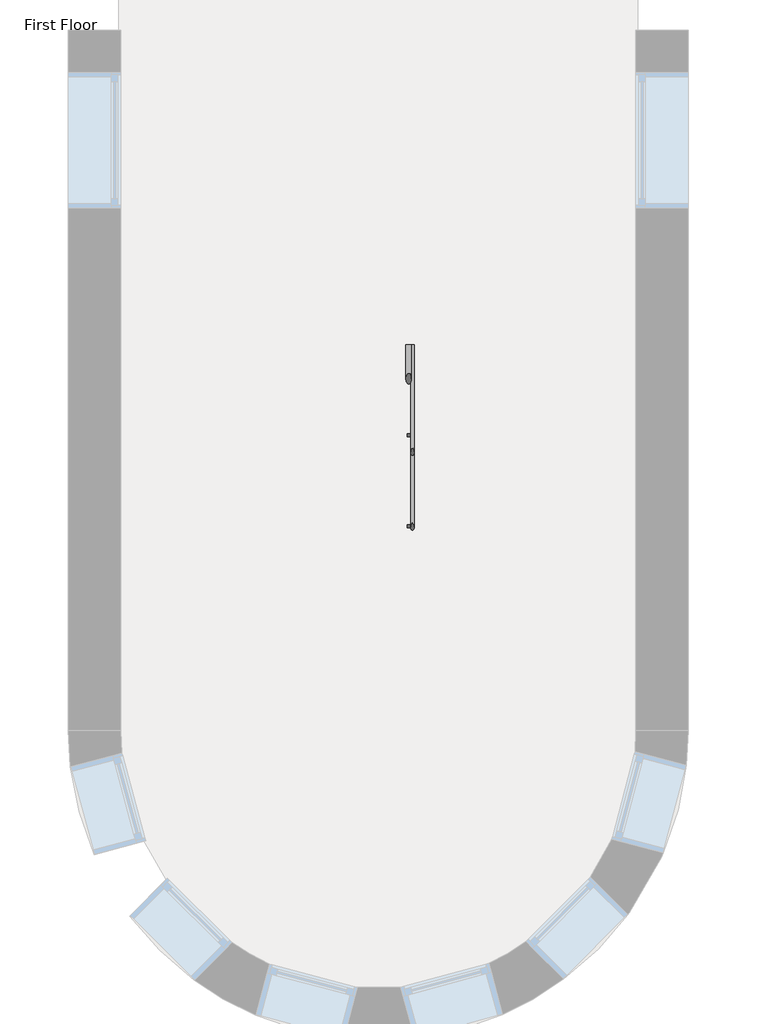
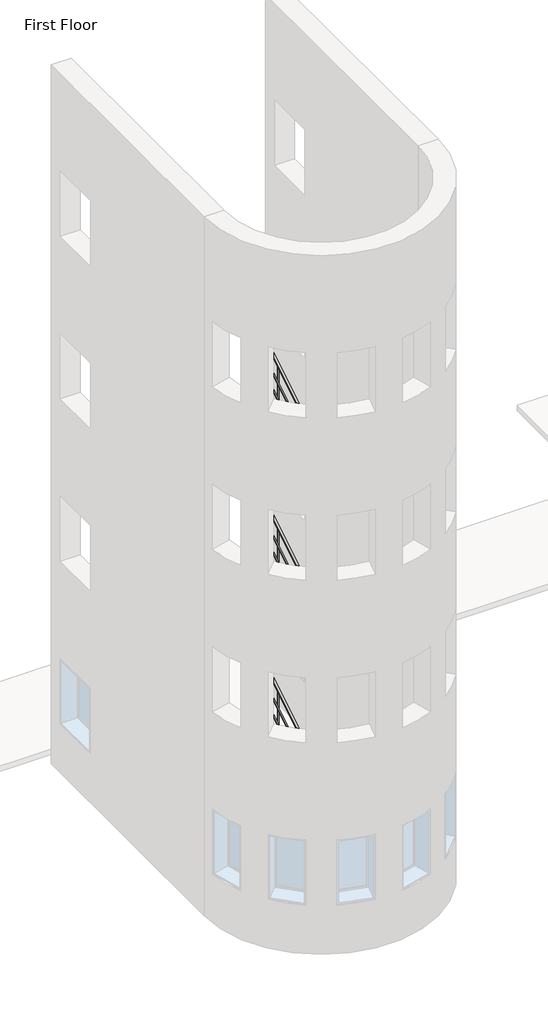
# One storey, part 21 of 24: 1 railing.
"""IFC4 building model written with IfcOpenShell, lengths in millimetres."""

from ifc_helpers import new_model, si_unit, frame, origin, place, context, project, spatial, polyline, circle_curve, ellipse_curve, outline, extrude, element, save
from ifc_brep_helpers import plane_surface, cylinder_surface, advanced_brep

model = new_model("IFC4")

# Units and contexts
model_context = context("Model", 3, world=origin())
ifc_project = project(units=[si_unit("LENGTHUNIT", "METRE", prefix="MILLI")], contexts=[model_context])

# Site, building, storey
site = spatial("IfcSite", under=ifc_project)
building = spatial("IfcBuilding", under=site)
storey = spatial("IfcBuildingStorey", under=building, Name="First Floor", Elevation=0.0)

# Railing
placement = place(None, origin())
element("IfcRailing", 1, ObjectType="Handrail - Rectangular", at=placement, inside=storey, context=model_context, shape_type="SolidModel", body=[
    advanced_brep(
    [(-14693.8714563, -30244.5683133, 6860.0829683), (-14719.2714563, -30244.5683133, 6860.0829683), (-14693.8714563, -32467.0683133, 8207.0526652), (-14719.2714563, -32467.0683133, 8207.0526652)],
    [
        (0, 1, ellipse_curve(frame((-14706.5714563, -30244.5683133, 6860.0829683), z_axis=(0.0, 1.0, 0.0), x_axis=(0.0, 0.0, -1.0)), 14.8503651, 12.7)),
        (1, 0, ellipse_curve(frame((-14706.5714563, -30244.5683133, 6860.0829683), z_axis=(0.0, 1.0, 0.0), x_axis=(0.0, 0.0, -1.0)), 14.8503651, 12.7)),
        (2, 3, ellipse_curve(frame((-14706.5714563, -32467.0683133, 8207.0526652), z_axis=(0.0, -1.0, 0.0), x_axis=(0.0, 0.0, -1.0)), 14.8503651, 12.7)),
        (3, 2, ellipse_curve(frame((-14706.5714563, -32467.0683133, 8207.0526652), z_axis=(0.0, -1.0, 0.0), x_axis=(0.0, 0.0, -1.0)), 14.8503651, 12.7)),
        (0, 2),
        (3, 1),
    ],
    [
        plane_surface(frame((-14706.5714563, -30244.5683133, 6874.9333333), z_axis=(0.0, 1.0, 0.0), x_axis=(0.0, 0.0, -1.0))),
        plane_surface(frame((-14706.5714563, -32467.0683133, 8221.9030303), z_axis=(0.0, -1.0, 0.0), x_axis=(0.0, 0.0, -1.0))),
        cylinder_surface(frame((-14706.5714563, -30251.1507451, 6864.0723209), z_axis=(0.0, 0.8551978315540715, -0.5183017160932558), x_axis=(-1.0, 0.0, 0.0)), 12.7),
    ],
    [
        (0, [[1, 2]]),
        (1, [[3, 4]]),
        (2, [[-1, 5, -4, 6]]),
        (2, [[-2, -6, -3, -5]]),
    ],
),
    advanced_brep(
    [(-14693.8714563, -32492.4683133, 8216.9), (-14693.8714563, -32467.0683133, 8216.9), (-15136.7839563, -32492.4683133, 8216.9), (-15136.7839563, -32467.0683133, 8216.9)],
    [
        (0, 1, circle_curve(frame((-14693.8714563, -32479.7683133, 8216.9), z_axis=(1.0, 0.0, 0.0), x_axis=(0.0, 1.0, 0.0)), 12.7)),
        (1, 0, circle_curve(frame((-14693.8714563, -32479.7683133, 8216.9), z_axis=(1.0, 0.0, 0.0), x_axis=(0.0, 1.0, 0.0)), 12.7)),
        (2, 3, circle_curve(frame((-15136.7839563, -32479.7683133, 8216.9), z_axis=(-1.0, 0.0, 0.0), x_axis=(0.0, 1.0, 0.0)), 12.7)),
        (3, 2, circle_curve(frame((-15136.7839563, -32479.7683133, 8216.9), z_axis=(-1.0, 0.0, 0.0), x_axis=(0.0, 1.0, 0.0)), 12.7)),
        (0, 2),
        (3, 1),
    ],
    [
        plane_surface(frame((-14693.8714563, -32479.7683133, 8229.6), z_axis=(1.0, 0.0, 0.0), x_axis=(0.0, -1.0, 0.0))),
        plane_surface(frame((-15136.7839563, -32479.7683133, 8229.6), z_axis=(-1.0, 0.0, 0.0), x_axis=(0.0, -1.0, 0.0))),
        cylinder_surface(frame((-14693.8714563, -32479.7683133, 8216.9), z_axis=(1.0, 0.0, 0.0), x_axis=(0.0, 1.0, 0.0)), 12.7),
    ],
    [
        (0, [[1, 2]]),
        (1, [[3, 4]]),
        (2, [[-1, 5, -4, 6]]),
        (2, [[-2, -6, -3, -5]]),
    ],
),
    advanced_brep(
    [(-15162.1839563, -32492.4683133, 8376.3859986), (-15136.7839563, -32492.4683133, 8376.3859986), (-15162.1839563, -30244.5683133, 9738.7496349), (-15136.7839563, -30244.5683133, 9738.7496349)],
    [
        (0, 1, ellipse_curve(frame((-15149.4839563, -32492.4683133, 8376.3859986), z_axis=(0.0, -1.0, 0.0), x_axis=(0.0, 0.0, -1.0)), 14.8503651, 12.7)),
        (1, 0, ellipse_curve(frame((-15149.4839563, -32492.4683133, 8376.3859986), z_axis=(0.0, -1.0, 0.0), x_axis=(0.0, 0.0, -1.0)), 14.8503651, 12.7)),
        (2, 3, ellipse_curve(frame((-15149.4839563, -30244.5683133, 9738.7496349), z_axis=(0.0, 1.0, 0.0), x_axis=(0.0, 0.0, -1.0)), 14.8503651, 12.7)),
        (3, 2, ellipse_curve(frame((-15149.4839563, -30244.5683133, 9738.7496349), z_axis=(0.0, 1.0, 0.0), x_axis=(0.0, 0.0, -1.0)), 14.8503651, 12.7)),
        (0, 2),
        (3, 1),
    ],
    [
        plane_surface(frame((-15149.4839563, -32492.4683133, 8391.2363636), z_axis=(0.0, -1.0, 0.0), x_axis=(0.0, 0.0, 1.0))),
        plane_surface(frame((-15149.4839563, -30244.5683133, 9753.6), z_axis=(0.0, 1.0, 0.0), x_axis=(0.0, 0.0, 1.0))),
        cylinder_surface(frame((-15149.4839563, -32485.8858815, 8380.3753512), z_axis=(0.0, -0.8551978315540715, -0.5183017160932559), x_axis=(1.0, 0.0, 0.0)), 12.7),
    ],
    [
        (0, [[1, 2]]),
        (1, [[3, 4]]),
        (2, [[-1, 5, -4, 6]]),
        (2, [[-2, -6, -3, -5]]),
    ],
),
    advanced_brep(
    [(-14693.8714563, -30244.5683133, 6555.2829683), (-14719.2714563, -30244.5683133, 6555.2829683), (-14693.8714563, -32467.0683133, 7902.2526652), (-14719.2714563, -32467.0683133, 7902.2526652)],
    [
        (0, 1, ellipse_curve(frame((-14706.5714563, -30244.5683133, 6555.2829683), z_axis=(0.0, 1.0, 0.0), x_axis=(0.0, 0.0, -1.0)), 14.8503651, 12.7)),
        (1, 0, ellipse_curve(frame((-14706.5714563, -30244.5683133, 6555.2829683), z_axis=(0.0, 1.0, 0.0), x_axis=(0.0, 0.0, -1.0)), 14.8503651, 12.7)),
        (2, 3, ellipse_curve(frame((-14706.5714563, -32467.0683133, 7902.2526652), z_axis=(0.0, -1.0, 0.0), x_axis=(0.0, 0.0, -1.0)), 14.8503651, 12.7)),
        (3, 2, ellipse_curve(frame((-14706.5714563, -32467.0683133, 7902.2526652), z_axis=(0.0, -1.0, 0.0), x_axis=(0.0, 0.0, -1.0)), 14.8503651, 12.7)),
        (0, 2),
        (3, 1),
    ],
    [
        plane_surface(frame((-14706.5714563, -30244.5683133, 6570.1333333), z_axis=(0.0, 1.0, 0.0), x_axis=(0.0, 0.0, -1.0))),
        plane_surface(frame((-14706.5714563, -32467.0683133, 7917.1030303), z_axis=(0.0, -1.0, 0.0), x_axis=(0.0, 0.0, -1.0))),
        cylinder_surface(frame((-14706.5714563, -30251.1507451, 6559.2723209), z_axis=(0.0, 0.8551978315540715, -0.5183017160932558), x_axis=(-1.0, 0.0, 0.0)), 12.7),
    ],
    [
        (0, [[1, 2]]),
        (1, [[3, 4]]),
        (2, [[-1, 5, -4, 6]]),
        (2, [[-2, -6, -3, -5]]),
    ],
),
    advanced_brep(
    [(-14693.8714563, -32492.4683133, 7912.1), (-14693.8714563, -32467.0683133, 7912.1), (-15136.7839563, -32492.4683133, 7912.1), (-15136.7839563, -32467.0683133, 7912.1)],
    [
        (0, 1, circle_curve(frame((-14693.8714563, -32479.7683133, 7912.1), z_axis=(1.0, 0.0, 0.0), x_axis=(0.0, 1.0, 0.0)), 12.7)),
        (1, 0, circle_curve(frame((-14693.8714563, -32479.7683133, 7912.1), z_axis=(1.0, 0.0, 0.0), x_axis=(0.0, 1.0, 0.0)), 12.7)),
        (2, 3, circle_curve(frame((-15136.7839563, -32479.7683133, 7912.1), z_axis=(-1.0, 0.0, 0.0), x_axis=(0.0, 1.0, 0.0)), 12.7)),
        (3, 2, circle_curve(frame((-15136.7839563, -32479.7683133, 7912.1), z_axis=(-1.0, 0.0, 0.0), x_axis=(0.0, 1.0, 0.0)), 12.7)),
        (0, 2),
        (3, 1),
    ],
    [
        plane_surface(frame((-14693.8714563, -32479.7683133, 7924.8), z_axis=(1.0, 0.0, 0.0), x_axis=(0.0, -1.0, 0.0))),
        plane_surface(frame((-15136.7839563, -32479.7683133, 7924.8), z_axis=(-1.0, 0.0, 0.0), x_axis=(0.0, -1.0, 0.0))),
        cylinder_surface(frame((-14693.8714563, -32479.7683133, 7912.1), z_axis=(1.0, 0.0, 0.0), x_axis=(0.0, 1.0, 0.0)), 12.7),
    ],
    [
        (0, [[1, 2]]),
        (1, [[3, 4]]),
        (2, [[-1, 5, -4, 6]]),
        (2, [[-2, -6, -3, -5]]),
    ],
),
    advanced_brep(
    [(-15162.1839563, -32492.4683133, 8071.5859986), (-15136.7839563, -32492.4683133, 8071.5859986), (-15162.1839563, -30244.5683133, 9433.9496349), (-15136.7839563, -30244.5683133, 9433.9496349)],
    [
        (0, 1, ellipse_curve(frame((-15149.4839563, -32492.4683133, 8071.5859986), z_axis=(0.0, -1.0, 0.0), x_axis=(0.0, 0.0, -1.0)), 14.8503651, 12.7)),
        (1, 0, ellipse_curve(frame((-15149.4839563, -32492.4683133, 8071.5859986), z_axis=(0.0, -1.0, 0.0), x_axis=(0.0, 0.0, -1.0)), 14.8503651, 12.7)),
        (2, 3, ellipse_curve(frame((-15149.4839563, -30244.5683133, 9433.9496349), z_axis=(0.0, 1.0, 0.0), x_axis=(0.0, 0.0, -1.0)), 14.8503651, 12.7)),
        (3, 2, ellipse_curve(frame((-15149.4839563, -30244.5683133, 9433.9496349), z_axis=(0.0, 1.0, 0.0), x_axis=(0.0, 0.0, -1.0)), 14.8503651, 12.7)),
        (0, 2),
        (3, 1),
    ],
    [
        plane_surface(frame((-15149.4839563, -32492.4683133, 8086.4363636), z_axis=(0.0, -1.0, 0.0), x_axis=(0.0, 0.0, 1.0))),
        plane_surface(frame((-15149.4839563, -30244.5683133, 9448.8), z_axis=(0.0, 1.0, 0.0), x_axis=(0.0, 0.0, 1.0))),
        cylinder_surface(frame((-15149.4839563, -32485.8858815, 8075.5753512), z_axis=(0.0, -0.8551978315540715, -0.5183017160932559), x_axis=(1.0, 0.0, 0.0)), 12.7),
    ],
    [
        (0, [[1, 2]]),
        (1, [[3, 4]]),
        (2, [[-1, 5, -4, 6]]),
        (2, [[-2, -6, -3, -5]]),
    ],
),
    advanced_brep(
    [(-14712.9214563, -30244.5683133, 7157.4577857), (-14751.0214563, -30244.5683133, 7157.4577857), (-14712.9214563, -32435.3183133, 8485.1850584), (-14751.0214563, -32435.3183133, 8485.1850584)],
    [
        (0, 1, ellipse_curve(frame((-14731.9714563, -30244.5683133, 7157.4577857), z_axis=(0.0, 1.0, 0.0), x_axis=(0.0, 0.0, -1.0)), 22.2755476, 19.05)),
        (1, 0, ellipse_curve(frame((-14731.9714563, -30244.5683133, 7157.4577857), z_axis=(0.0, 1.0, 0.0), x_axis=(0.0, 0.0, -1.0)), 22.2755476, 19.05)),
        (2, 3, ellipse_curve(frame((-14731.9714563, -32435.3183133, 8485.1850584), z_axis=(0.0, -1.0, 0.0), x_axis=(0.0, 0.0, -1.0)), 22.2755476, 19.05)),
        (3, 2, ellipse_curve(frame((-14731.9714563, -32435.3183133, 8485.1850584), z_axis=(0.0, -1.0, 0.0), x_axis=(0.0, 0.0, -1.0)), 22.2755476, 19.05)),
        (0, 2),
        (3, 1),
    ],
    [
        plane_surface(frame((-14731.9714563, -30244.5683133, 7179.7333333), z_axis=(0.0, 1.0, 0.0), x_axis=(0.0, 0.0, -1.0))),
        plane_surface(frame((-14731.9714563, -32435.3183133, 8507.460606), z_axis=(0.0, -1.0, 0.0), x_axis=(0.0, 0.0, -1.0))),
        cylinder_surface(frame((-14731.9714563, -30254.441961, 7163.4418146), z_axis=(0.0, 0.8551978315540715, -0.5183017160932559), x_axis=(-1.0, 0.0, 0.0)), 19.05),
    ],
    [
        (0, [[1, 2]]),
        (1, [[3, 4]]),
        (2, [[-1, 5, -4, 6]]),
        (2, [[-2, -6, -3, -5]]),
    ],
),
    advanced_brep(
    [(-14712.9214563, -32473.4183133, 8515.35), (-14712.9214563, -32435.3183133, 8515.35), (-15105.0339563, -32473.4183133, 8515.35), (-15105.0339563, -32435.3183133, 8515.35)],
    [
        (0, 1, circle_curve(frame((-14712.9214563, -32454.3683133, 8515.35), z_axis=(1.0, 0.0, 0.0), x_axis=(0.0, 1.0, 0.0)), 19.05)),
        (1, 0, circle_curve(frame((-14712.9214563, -32454.3683133, 8515.35), z_axis=(1.0, 0.0, 0.0), x_axis=(0.0, 1.0, 0.0)), 19.05)),
        (2, 3, circle_curve(frame((-15105.0339563, -32454.3683133, 8515.35), z_axis=(-1.0, 0.0, 0.0), x_axis=(0.0, 1.0, 0.0)), 19.05)),
        (3, 2, circle_curve(frame((-15105.0339563, -32454.3683133, 8515.35), z_axis=(-1.0, 0.0, 0.0), x_axis=(0.0, 1.0, 0.0)), 19.05)),
        (0, 2),
        (3, 1),
    ],
    [
        plane_surface(frame((-14712.9214563, -32454.3683133, 8534.4), z_axis=(1.0, 0.0, 0.0), x_axis=(0.0, -1.0, 0.0))),
        plane_surface(frame((-15105.0339563, -32454.3683133, 8534.4), z_axis=(-1.0, 0.0, 0.0), x_axis=(0.0, -1.0, 0.0))),
        cylinder_surface(frame((-14712.9214563, -32454.3683133, 8515.35), z_axis=(1.0, 0.0, 0.0), x_axis=(0.0, 1.0, 0.0)), 19.05),
    ],
    [
        (0, [[1, 2]]),
        (1, [[3, 4]]),
        (2, [[-1, 5, -4, 6]]),
        (2, [[-2, -6, -3, -5]]),
    ],
),
    advanced_brep(
    [(-15143.1339563, -32473.4183133, 8685.3062706), (-15105.0339563, -32473.4183133, 8685.3062706), (-15143.1339563, -30244.5683133, 10036.1244524), (-15105.0339563, -30244.5683133, 10036.1244524)],
    [
        (0, 1, ellipse_curve(frame((-15124.0839563, -32473.4183133, 8685.3062706), z_axis=(0.0, -1.0, 0.0), x_axis=(0.0, 0.0, -1.0)), 22.2755476, 19.05)),
        (1, 0, ellipse_curve(frame((-15124.0839563, -32473.4183133, 8685.3062706), z_axis=(0.0, -1.0, 0.0), x_axis=(0.0, 0.0, -1.0)), 22.2755476, 19.05)),
        (2, 3, ellipse_curve(frame((-15124.0839563, -30244.5683133, 10036.1244524), z_axis=(0.0, 1.0, 0.0), x_axis=(0.0, 0.0, -1.0)), 22.2755476, 19.05)),
        (3, 2, ellipse_curve(frame((-15124.0839563, -30244.5683133, 10036.1244524), z_axis=(0.0, 1.0, 0.0), x_axis=(0.0, 0.0, -1.0)), 22.2755476, 19.05)),
        (0, 2),
        (3, 1),
    ],
    [
        plane_surface(frame((-15124.0839563, -32473.4183133, 8707.5818182), z_axis=(0.0, -1.0, 0.0), x_axis=(0.0, 0.0, 1.0))),
        plane_surface(frame((-15124.0839563, -30244.5683133, 10058.4), z_axis=(0.0, 1.0, 0.0), x_axis=(0.0, 0.0, 1.0))),
        cylinder_surface(frame((-15124.0839563, -32463.5446656, 8691.2902995), z_axis=(0.0, -0.8551978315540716, -0.5183017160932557), x_axis=(1.0, 0.0, 0.0)), 19.05),
    ],
    [
        (0, [[1, 2]]),
        (1, [[3, 4]]),
        (2, [[-1, 5, -4, 6]]),
        (2, [[-2, -6, -3, -5]]),
    ],
),
    extrude(outline(polyline([(-30635.0933133, 9777.1670866), (-30616.0433133, 9788.7125412), (-30616.0433133, 8961.644815), (-30635.0933133, 8950.0993604), (-30635.0933133, 9777.1670866)])), frame((-15133.6089563, 0.0, 0.0), z_axis=(1.0, 0.0, 0.0), x_axis=(0.0, 1.0, 0.0)), (0.0, 0.0, 1.0), 19.05),
    extrude(outline(polyline([(-31244.6933133, 9407.7125412), (-31225.6433133, 9419.2579957), (-31225.6433133, 8592.1902695), (-31244.6933133, 8580.644815), (-31244.6933133, 9407.7125412)])), frame((-15133.6089563, 0.0, 0.0), z_axis=(1.0, 0.0, 0.0), x_axis=(0.0, 1.0, 0.0)), (0.0, 0.0, 1.0), 19.05),
    extrude(outline(polyline([(-31854.2933133, 9038.2579957), (-31835.2433133, 9049.8034502), (-31835.2433133, 8222.7357241), (-31854.2933133, 8211.1902695), (-31854.2933133, 9038.2579957)])), frame((-15133.6089563, 0.0, 0.0), z_axis=(1.0, 0.0, 0.0), x_axis=(0.0, 1.0, 0.0)), (0.0, 0.0, 1.0), 19.05),
    extrude(outline(polyline([(-32082.8933133, 8249.3186018), (-32063.8433133, 8237.7731472), (-32063.8433133, 7410.705421), (-32082.8933133, 7422.2508756), (-32082.8933133, 8249.3186018)])), frame((-14741.4964563, 0.0, 0.0), z_axis=(1.0, 0.0, 0.0), x_axis=(0.0, 1.0, 0.0)), (0.0, 0.0, 1.0), 19.05),
    extrude(outline(polyline([(-31473.2933133, 7879.8640563), (-31454.2433133, 7868.3186018), (-31454.2433133, 7041.2508756), (-31473.2933133, 7052.7963301), (-31473.2933133, 7879.8640563)])), frame((-14741.4964563, 0.0, 0.0), z_axis=(1.0, 0.0, 0.0), x_axis=(0.0, 1.0, 0.0)), (0.0, 0.0, 1.0), 19.05),
    extrude(outline(polyline([(-30863.6933133, 7510.4095109), (-30844.6433133, 7498.8640563), (-30844.6433133, 6671.7963301), (-30863.6933133, 6683.3417847), (-30863.6933133, 7510.4095109)])), frame((-14741.4964563, 0.0, 0.0), z_axis=(1.0, 0.0, 0.0), x_axis=(0.0, 1.0, 0.0)), (0.0, 0.0, 1.0), 19.05),
    extrude(outline(polyline([(-32463.8933133, 8668.8034502), (-32444.8433133, 8680.3489048), (-32444.8433133, 7853.2811786), (-32463.8933133, 7841.7357241), (-32463.8933133, 8668.8034502)])), frame((-15133.6089563, 0.0, 0.0), z_axis=(1.0, 0.0, 0.0), x_axis=(0.0, 1.0, 0.0)), (0.0, 0.0, 1.0), 19.05),
    extrude(outline(polyline([(-14722.4464563, -32444.8433133), (-14722.4464563, -32463.8933133), (-14741.4964563, -32463.8933133), (-14741.4964563, -32444.8433133), (-14722.4464563, -32444.8433133)])), frame((0.0, 0.0, 7696.2), z_axis=(0.0, 0.0, 1.0), x_axis=(1.0, 0.0, 0.0)), (0.0, 0.0, 1.0), 800.1),
    extrude(outline(polyline([(-30263.6183133, 10002.3034502), (-30244.5683133, 10013.8489048), (-30244.5683133, 9186.7811786), (-30263.6183133, 9175.2357241), (-30263.6183133, 10002.3034502)])), frame((-15133.6089563, 0.0, 0.0), z_axis=(1.0, 0.0, 0.0), x_axis=(0.0, 1.0, 0.0)), (0.0, 0.0, 1.0), 19.05),
    extrude(outline(polyline([(-30263.6183133, 7146.7276927), (-30244.5683133, 7135.1822381), (-30244.5683133, 6308.1145119), (-30263.6183133, 6319.6599665), (-30263.6183133, 7146.7276927)])), frame((-14741.4964563, 0.0, 0.0), z_axis=(1.0, 0.0, 0.0), x_axis=(0.0, 1.0, 0.0)), (0.0, 0.0, 1.0), 19.05),
    advanced_brep(
    [(-14693.8714563, -30244.5683133, 3812.0829683), (-14719.2714563, -30244.5683133, 3812.0829683), (-14693.8714563, -32467.0683133, 5159.0526652), (-14719.2714563, -32467.0683133, 5159.0526652)],
    [
        (0, 1, ellipse_curve(frame((-14706.5714563, -30244.5683133, 3812.0829683), z_axis=(0.0, 1.0, 0.0), x_axis=(0.0, 0.0, -1.0)), 14.8503651, 12.7)),
        (1, 0, ellipse_curve(frame((-14706.5714563, -30244.5683133, 3812.0829683), z_axis=(0.0, 1.0, 0.0), x_axis=(0.0, 0.0, -1.0)), 14.8503651, 12.7)),
        (2, 3, ellipse_curve(frame((-14706.5714563, -32467.0683133, 5159.0526652), z_axis=(0.0, -1.0, 0.0), x_axis=(0.0, 0.0, -1.0)), 14.8503651, 12.7)),
        (3, 2, ellipse_curve(frame((-14706.5714563, -32467.0683133, 5159.0526652), z_axis=(0.0, -1.0, 0.0), x_axis=(0.0, 0.0, -1.0)), 14.8503651, 12.7)),
        (0, 2),
        (3, 1),
    ],
    [
        plane_surface(frame((-14706.5714563, -30244.5683133, 3826.9333333), z_axis=(0.0, 1.0, 0.0), x_axis=(0.0, 0.0, -1.0))),
        plane_surface(frame((-14706.5714563, -32467.0683133, 5173.9030303), z_axis=(0.0, -1.0, 0.0), x_axis=(0.0, 0.0, -1.0))),
        cylinder_surface(frame((-14706.5714563, -30251.1507451, 3816.0723209), z_axis=(0.0, 0.8551978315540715, -0.5183017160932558), x_axis=(-1.0, 0.0, 0.0)), 12.7),
    ],
    [
        (0, [[1, 2]]),
        (1, [[3, 4]]),
        (2, [[-1, 5, -4, 6]]),
        (2, [[-2, -6, -3, -5]]),
    ],
),
    advanced_brep(
    [(-14693.8714563, -32492.4683133, 5168.9), (-14693.8714563, -32467.0683133, 5168.9), (-15136.7839563, -32492.4683133, 5168.9), (-15136.7839563, -32467.0683133, 5168.9)],
    [
        (0, 1, circle_curve(frame((-14693.8714563, -32479.7683133, 5168.9), z_axis=(1.0, 0.0, 0.0), x_axis=(0.0, 1.0, 0.0)), 12.7)),
        (1, 0, circle_curve(frame((-14693.8714563, -32479.7683133, 5168.9), z_axis=(1.0, 0.0, 0.0), x_axis=(0.0, 1.0, 0.0)), 12.7)),
        (2, 3, circle_curve(frame((-15136.7839563, -32479.7683133, 5168.9), z_axis=(-1.0, 0.0, 0.0), x_axis=(0.0, 1.0, 0.0)), 12.7)),
        (3, 2, circle_curve(frame((-15136.7839563, -32479.7683133, 5168.9), z_axis=(-1.0, 0.0, 0.0), x_axis=(0.0, 1.0, 0.0)), 12.7)),
        (0, 2),
        (3, 1),
    ],
    [
        plane_surface(frame((-14693.8714563, -32479.7683133, 5181.6), z_axis=(1.0, 0.0, 0.0), x_axis=(0.0, -1.0, 0.0))),
        plane_surface(frame((-15136.7839563, -32479.7683133, 5181.6), z_axis=(-1.0, 0.0, 0.0), x_axis=(0.0, -1.0, 0.0))),
        cylinder_surface(frame((-14693.8714563, -32479.7683133, 5168.9), z_axis=(1.0, 0.0, 0.0), x_axis=(0.0, 1.0, 0.0)), 12.7),
    ],
    [
        (0, [[1, 2]]),
        (1, [[3, 4]]),
        (2, [[-1, 5, -4, 6]]),
        (2, [[-2, -6, -3, -5]]),
    ],
),
    advanced_brep(
    [(-15162.1839563, -32492.4683133, 5328.3859986), (-15136.7839563, -32492.4683133, 5328.3859986), (-15162.1839563, -30244.5683133, 6690.7496349), (-15136.7839563, -30244.5683133, 6690.7496349)],
    [
        (0, 1, ellipse_curve(frame((-15149.4839563, -32492.4683133, 5328.3859986), z_axis=(0.0, -1.0, 0.0), x_axis=(0.0, 0.0, -1.0)), 14.8503651, 12.7)),
        (1, 0, ellipse_curve(frame((-15149.4839563, -32492.4683133, 5328.3859986), z_axis=(0.0, -1.0, 0.0), x_axis=(0.0, 0.0, -1.0)), 14.8503651, 12.7)),
        (2, 3, ellipse_curve(frame((-15149.4839563, -30244.5683133, 6690.7496349), z_axis=(0.0, 1.0, 0.0), x_axis=(0.0, 0.0, -1.0)), 14.8503651, 12.7)),
        (3, 2, ellipse_curve(frame((-15149.4839563, -30244.5683133, 6690.7496349), z_axis=(0.0, 1.0, 0.0), x_axis=(0.0, 0.0, -1.0)), 14.8503651, 12.7)),
        (0, 2),
        (3, 1),
    ],
    [
        plane_surface(frame((-15149.4839563, -32492.4683133, 5343.2363636), z_axis=(0.0, -1.0, 0.0), x_axis=(0.0, 0.0, 1.0))),
        plane_surface(frame((-15149.4839563, -30244.5683133, 6705.6), z_axis=(0.0, 1.0, 0.0), x_axis=(0.0, 0.0, 1.0))),
        cylinder_surface(frame((-15149.4839563, -32485.8858815, 5332.3753512), z_axis=(0.0, -0.8551978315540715, -0.5183017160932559), x_axis=(1.0, 0.0, 0.0)), 12.7),
    ],
    [
        (0, [[1, 2]]),
        (1, [[3, 4]]),
        (2, [[-1, 5, -4, 6]]),
        (2, [[-2, -6, -3, -5]]),
    ],
),
    advanced_brep(
    [(-14693.8714563, -30244.5683133, 3507.2829683), (-14719.2714563, -30244.5683133, 3507.2829683), (-14693.8714563, -32467.0683133, 4854.2526652), (-14719.2714563, -32467.0683133, 4854.2526652)],
    [
        (0, 1, ellipse_curve(frame((-14706.5714563, -30244.5683133, 3507.2829683), z_axis=(0.0, 1.0, 0.0), x_axis=(0.0, 0.0, -1.0)), 14.8503651, 12.7)),
        (1, 0, ellipse_curve(frame((-14706.5714563, -30244.5683133, 3507.2829683), z_axis=(0.0, 1.0, 0.0), x_axis=(0.0, 0.0, -1.0)), 14.8503651, 12.7)),
        (2, 3, ellipse_curve(frame((-14706.5714563, -32467.0683133, 4854.2526652), z_axis=(0.0, -1.0, 0.0), x_axis=(0.0, 0.0, -1.0)), 14.8503651, 12.7)),
        (3, 2, ellipse_curve(frame((-14706.5714563, -32467.0683133, 4854.2526652), z_axis=(0.0, -1.0, 0.0), x_axis=(0.0, 0.0, -1.0)), 14.8503651, 12.7)),
        (0, 2),
        (3, 1),
    ],
    [
        plane_surface(frame((-14706.5714563, -30244.5683133, 3522.1333333), z_axis=(0.0, 1.0, 0.0), x_axis=(0.0, 0.0, -1.0))),
        plane_surface(frame((-14706.5714563, -32467.0683133, 4869.1030303), z_axis=(0.0, -1.0, 0.0), x_axis=(0.0, 0.0, -1.0))),
        cylinder_surface(frame((-14706.5714563, -30251.1507451, 3511.2723209), z_axis=(0.0, 0.8551978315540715, -0.5183017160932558), x_axis=(-1.0, 0.0, 0.0)), 12.7),
    ],
    [
        (0, [[1, 2]]),
        (1, [[3, 4]]),
        (2, [[-1, 5, -4, 6]]),
        (2, [[-2, -6, -3, -5]]),
    ],
),
    advanced_brep(
    [(-14693.8714563, -32492.4683133, 4864.1), (-14693.8714563, -32467.0683133, 4864.1), (-15136.7839563, -32492.4683133, 4864.1), (-15136.7839563, -32467.0683133, 4864.1)],
    [
        (0, 1, circle_curve(frame((-14693.8714563, -32479.7683133, 4864.1), z_axis=(1.0, 0.0, 0.0), x_axis=(0.0, 1.0, 0.0)), 12.7)),
        (1, 0, circle_curve(frame((-14693.8714563, -32479.7683133, 4864.1), z_axis=(1.0, 0.0, 0.0), x_axis=(0.0, 1.0, 0.0)), 12.7)),
        (2, 3, circle_curve(frame((-15136.7839563, -32479.7683133, 4864.1), z_axis=(-1.0, 0.0, 0.0), x_axis=(0.0, 1.0, 0.0)), 12.7)),
        (3, 2, circle_curve(frame((-15136.7839563, -32479.7683133, 4864.1), z_axis=(-1.0, 0.0, 0.0), x_axis=(0.0, 1.0, 0.0)), 12.7)),
        (0, 2),
        (3, 1),
    ],
    [
        plane_surface(frame((-14693.8714563, -32479.7683133, 4876.8), z_axis=(1.0, 0.0, 0.0), x_axis=(0.0, -1.0, 0.0))),
        plane_surface(frame((-15136.7839563, -32479.7683133, 4876.8), z_axis=(-1.0, 0.0, 0.0), x_axis=(0.0, -1.0, 0.0))),
        cylinder_surface(frame((-14693.8714563, -32479.7683133, 4864.1), z_axis=(1.0, 0.0, 0.0), x_axis=(0.0, 1.0, 0.0)), 12.7),
    ],
    [
        (0, [[1, 2]]),
        (1, [[3, 4]]),
        (2, [[-1, 5, -4, 6]]),
        (2, [[-2, -6, -3, -5]]),
    ],
),
    advanced_brep(
    [(-15162.1839563, -32492.4683133, 5023.5859986), (-15136.7839563, -32492.4683133, 5023.5859986), (-15162.1839563, -30244.5683133, 6385.9496349), (-15136.7839563, -30244.5683133, 6385.9496349)],
    [
        (0, 1, ellipse_curve(frame((-15149.4839563, -32492.4683133, 5023.5859986), z_axis=(0.0, -1.0, 0.0), x_axis=(0.0, 0.0, -1.0)), 14.8503651, 12.7)),
        (1, 0, ellipse_curve(frame((-15149.4839563, -32492.4683133, 5023.5859986), z_axis=(0.0, -1.0, 0.0), x_axis=(0.0, 0.0, -1.0)), 14.8503651, 12.7)),
        (2, 3, ellipse_curve(frame((-15149.4839563, -30244.5683133, 6385.9496349), z_axis=(0.0, 1.0, 0.0), x_axis=(0.0, 0.0, -1.0)), 14.8503651, 12.7)),
        (3, 2, ellipse_curve(frame((-15149.4839563, -30244.5683133, 6385.9496349), z_axis=(0.0, 1.0, 0.0), x_axis=(0.0, 0.0, -1.0)), 14.8503651, 12.7)),
        (0, 2),
        (3, 1),
    ],
    [
        plane_surface(frame((-15149.4839563, -32492.4683133, 5038.4363636), z_axis=(0.0, -1.0, 0.0), x_axis=(0.0, 0.0, 1.0))),
        plane_surface(frame((-15149.4839563, -30244.5683133, 6400.8), z_axis=(0.0, 1.0, 0.0), x_axis=(0.0, 0.0, 1.0))),
        cylinder_surface(frame((-15149.4839563, -32485.8858815, 5027.5753512), z_axis=(0.0, -0.8551978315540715, -0.5183017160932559), x_axis=(1.0, 0.0, 0.0)), 12.7),
    ],
    [
        (0, [[1, 2]]),
        (1, [[3, 4]]),
        (2, [[-1, 5, -4, 6]]),
        (2, [[-2, -6, -3, -5]]),
    ],
),
    advanced_brep(
    [(-14712.9214563, -30244.5683133, 4109.4577857), (-14751.0214563, -30244.5683133, 4109.4577857), (-14712.9214563, -32435.3183133, 5437.1850585), (-14751.0214563, -32435.3183133, 5437.1850585)],
    [
        (0, 1, ellipse_curve(frame((-14731.9714563, -30244.5683133, 4109.4577857), z_axis=(0.0, 1.0, 0.0), x_axis=(0.0, 0.0, -1.0)), 22.2755476, 19.05)),
        (1, 0, ellipse_curve(frame((-14731.9714563, -30244.5683133, 4109.4577857), z_axis=(0.0, 1.0, 0.0), x_axis=(0.0, 0.0, -1.0)), 22.2755476, 19.05)),
        (2, 3, ellipse_curve(frame((-14731.9714563, -32435.3183133, 5437.1850585), z_axis=(0.0, -1.0, 0.0), x_axis=(0.0, 0.0, -1.0)), 22.2755476, 19.05)),
        (3, 2, ellipse_curve(frame((-14731.9714563, -32435.3183133, 5437.1850585), z_axis=(0.0, -1.0, 0.0), x_axis=(0.0, 0.0, -1.0)), 22.2755476, 19.05)),
        (0, 2),
        (3, 1),
    ],
    [
        plane_surface(frame((-14731.9714563, -30244.5683133, 4131.7333333), z_axis=(0.0, 1.0, 0.0), x_axis=(0.0, 0.0, -1.0))),
        plane_surface(frame((-14731.9714563, -32435.3183133, 5459.4606061), z_axis=(0.0, -1.0, 0.0), x_axis=(0.0, 0.0, -1.0))),
        cylinder_surface(frame((-14731.9714563, -30254.441961, 4115.4418146), z_axis=(0.0, 0.8551978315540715, -0.5183017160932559), x_axis=(-1.0, 0.0, 0.0)), 19.05),
    ],
    [
        (0, [[1, 2]]),
        (1, [[3, 4]]),
        (2, [[-1, 5, -4, 6]]),
        (2, [[-2, -6, -3, -5]]),
    ],
),
    advanced_brep(
    [(-14712.9214563, -32473.4183133, 5467.35), (-14712.9214563, -32435.3183133, 5467.35), (-15105.0339563, -32473.4183133, 5467.35), (-15105.0339563, -32435.3183133, 5467.35)],
    [
        (0, 1, circle_curve(frame((-14712.9214563, -32454.3683133, 5467.35), z_axis=(1.0, 0.0, 0.0), x_axis=(0.0, 1.0, 0.0)), 19.05)),
        (1, 0, circle_curve(frame((-14712.9214563, -32454.3683133, 5467.35), z_axis=(1.0, 0.0, 0.0), x_axis=(0.0, 1.0, 0.0)), 19.05)),
        (2, 3, circle_curve(frame((-15105.0339563, -32454.3683133, 5467.35), z_axis=(-1.0, 0.0, 0.0), x_axis=(0.0, 1.0, 0.0)), 19.05)),
        (3, 2, circle_curve(frame((-15105.0339563, -32454.3683133, 5467.35), z_axis=(-1.0, 0.0, 0.0), x_axis=(0.0, 1.0, 0.0)), 19.05)),
        (0, 2),
        (3, 1),
    ],
    [
        plane_surface(frame((-14712.9214563, -32454.3683133, 5486.4), z_axis=(1.0, 0.0, 0.0), x_axis=(0.0, -1.0, 0.0))),
        plane_surface(frame((-15105.0339563, -32454.3683133, 5486.4), z_axis=(-1.0, 0.0, 0.0), x_axis=(0.0, -1.0, 0.0))),
        cylinder_surface(frame((-14712.9214563, -32454.3683133, 5467.35), z_axis=(1.0, 0.0, 0.0), x_axis=(0.0, 1.0, 0.0)), 19.05),
    ],
    [
        (0, [[1, 2]]),
        (1, [[3, 4]]),
        (2, [[-1, 5, -4, 6]]),
        (2, [[-2, -6, -3, -5]]),
    ],
),
    advanced_brep(
    [(-15143.1339563, -32473.4183133, 5637.3062706), (-15105.0339563, -32473.4183133, 5637.3062706), (-15143.1339563, -30244.5683133, 6988.1244524), (-15105.0339563, -30244.5683133, 6988.1244524)],
    [
        (0, 1, ellipse_curve(frame((-15124.0839563, -32473.4183133, 5637.3062706), z_axis=(0.0, -1.0, 0.0), x_axis=(0.0, 0.0, -1.0)), 22.2755476, 19.05)),
        (1, 0, ellipse_curve(frame((-15124.0839563, -32473.4183133, 5637.3062706), z_axis=(0.0, -1.0, 0.0), x_axis=(0.0, 0.0, -1.0)), 22.2755476, 19.05)),
        (2, 3, ellipse_curve(frame((-15124.0839563, -30244.5683133, 6988.1244524), z_axis=(0.0, 1.0, 0.0), x_axis=(0.0, 0.0, -1.0)), 22.2755476, 19.05)),
        (3, 2, ellipse_curve(frame((-15124.0839563, -30244.5683133, 6988.1244524), z_axis=(0.0, 1.0, 0.0), x_axis=(0.0, 0.0, -1.0)), 22.2755476, 19.05)),
        (0, 2),
        (3, 1),
    ],
    [
        plane_surface(frame((-15124.0839563, -32473.4183133, 5659.5818182), z_axis=(0.0, -1.0, 0.0), x_axis=(0.0, 0.0, 1.0))),
        plane_surface(frame((-15124.0839563, -30244.5683133, 7010.4), z_axis=(0.0, 1.0, 0.0), x_axis=(0.0, 0.0, 1.0))),
        cylinder_surface(frame((-15124.0839563, -32463.5446656, 5643.2902995), z_axis=(0.0, -0.8551978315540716, -0.5183017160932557), x_axis=(1.0, 0.0, 0.0)), 19.05),
    ],
    [
        (0, [[1, 2]]),
        (1, [[3, 4]]),
        (2, [[-1, 5, -4, 6]]),
        (2, [[-2, -6, -3, -5]]),
    ],
),
    extrude(outline(polyline([(-30635.0933133, 6729.1670866), (-30616.0433133, 6740.7125412), (-30616.0433133, 5913.644815), (-30635.0933133, 5902.0993604), (-30635.0933133, 6729.1670866)])), frame((-15133.6089563, 0.0, 0.0), z_axis=(1.0, 0.0, 0.0), x_axis=(0.0, 1.0, 0.0)), (0.0, 0.0, 1.0), 19.05),
    extrude(outline(polyline([(-31244.6933133, 6359.7125412), (-31225.6433133, 6371.2579957), (-31225.6433133, 5544.1902695), (-31244.6933133, 5532.644815), (-31244.6933133, 6359.7125412)])), frame((-15133.6089563, 0.0, 0.0), z_axis=(1.0, 0.0, 0.0), x_axis=(0.0, 1.0, 0.0)), (0.0, 0.0, 1.0), 19.05),
    extrude(outline(polyline([(-31854.2933133, 5990.2579957), (-31835.2433133, 6001.8034503), (-31835.2433133, 5174.7357241), (-31854.2933133, 5163.1902695), (-31854.2933133, 5990.2579957)])), frame((-15133.6089563, 0.0, 0.0), z_axis=(1.0, 0.0, 0.0), x_axis=(0.0, 1.0, 0.0)), (0.0, 0.0, 1.0), 19.05),
    extrude(outline(polyline([(-32082.8933133, 5201.3186018), (-32063.8433133, 5189.7731472), (-32063.8433133, 4362.705421), (-32082.8933133, 4374.2508756), (-32082.8933133, 5201.3186018)])), frame((-14741.4964563, 0.0, 0.0), z_axis=(1.0, 0.0, 0.0), x_axis=(0.0, 1.0, 0.0)), (0.0, 0.0, 1.0), 19.05),
    extrude(outline(polyline([(-31473.2933133, 4831.8640563), (-31454.2433133, 4820.3186018), (-31454.2433133, 3993.2508756), (-31473.2933133, 4004.7963301), (-31473.2933133, 4831.8640563)])), frame((-14741.4964563, 0.0, 0.0), z_axis=(1.0, 0.0, 0.0), x_axis=(0.0, 1.0, 0.0)), (0.0, 0.0, 1.0), 19.05),
    extrude(outline(polyline([(-30863.6933133, 4462.4095109), (-30844.6433133, 4450.8640563), (-30844.6433133, 3623.7963301), (-30863.6933133, 3635.3417847), (-30863.6933133, 4462.4095109)])), frame((-14741.4964563, 0.0, 0.0), z_axis=(1.0, 0.0, 0.0), x_axis=(0.0, 1.0, 0.0)), (0.0, 0.0, 1.0), 19.05),
    extrude(outline(polyline([(-32463.8933133, 5620.8034503), (-32444.8433133, 5632.3489048), (-32444.8433133, 4805.2811786), (-32463.8933133, 4793.7357241), (-32463.8933133, 5620.8034503)])), frame((-15133.6089563, 0.0, 0.0), z_axis=(1.0, 0.0, 0.0), x_axis=(0.0, 1.0, 0.0)), (0.0, 0.0, 1.0), 19.05),
    extrude(outline(polyline([(-14722.4464563, -32444.8433133), (-14722.4464563, -32463.8933133), (-14741.4964563, -32463.8933133), (-14741.4964563, -32444.8433133), (-14722.4464563, -32444.8433133)])), frame((0.0, 0.0, 4648.2), z_axis=(0.0, 0.0, 1.0), x_axis=(1.0, 0.0, 0.0)), (0.0, 0.0, 1.0), 800.1),
    extrude(outline(polyline([(-30263.6183133, 6954.3034503), (-30244.5683133, 6965.8489048), (-30244.5683133, 6138.7811786), (-30263.6183133, 6127.2357241), (-30263.6183133, 6954.3034503)])), frame((-15133.6089563, 0.0, 0.0), z_axis=(1.0, 0.0, 0.0), x_axis=(0.0, 1.0, 0.0)), (0.0, 0.0, 1.0), 19.05),
    extrude(outline(polyline([(-30263.6183133, 4098.7276927), (-30244.5683133, 4087.1822381), (-30244.5683133, 3260.114512), (-30263.6183133, 3271.6599665), (-30263.6183133, 4098.7276927)])), frame((-14741.4964563, 0.0, 0.0), z_axis=(1.0, 0.0, 0.0), x_axis=(0.0, 1.0, 0.0)), (0.0, 0.0, 1.0), 19.05),
    advanced_brep(
    [(-14693.8714563, -30244.5683133, 764.0829683), (-14719.2714563, -30244.5683133, 764.0829683), (-14693.8714563, -32467.0683133, 2111.0526652), (-14719.2714563, -32467.0683133, 2111.0526652)],
    [
        (0, 1, ellipse_curve(frame((-14706.5714563, -30244.5683133, 764.0829683), z_axis=(0.0, 1.0, 0.0), x_axis=(0.0, 0.0, -1.0)), 14.8503651, 12.7)),
        (1, 0, ellipse_curve(frame((-14706.5714563, -30244.5683133, 764.0829683), z_axis=(0.0, 1.0, 0.0), x_axis=(0.0, 0.0, -1.0)), 14.8503651, 12.7)),
        (2, 3, ellipse_curve(frame((-14706.5714563, -32467.0683133, 2111.0526652), z_axis=(0.0, -1.0, 0.0), x_axis=(0.0, 0.0, -1.0)), 14.8503651, 12.7)),
        (3, 2, ellipse_curve(frame((-14706.5714563, -32467.0683133, 2111.0526652), z_axis=(0.0, -1.0, 0.0), x_axis=(0.0, 0.0, -1.0)), 14.8503651, 12.7)),
        (0, 2),
        (3, 1),
    ],
    [
        plane_surface(frame((-14706.5714563, -30244.5683133, 778.9333333), z_axis=(0.0, 1.0, 0.0), x_axis=(0.0, 0.0, -1.0))),
        plane_surface(frame((-14706.5714563, -32467.0683133, 2125.9030303), z_axis=(0.0, -1.0, 0.0), x_axis=(0.0, 0.0, -1.0))),
        cylinder_surface(frame((-14706.5714563, -30251.1507451, 768.0723209), z_axis=(0.0, 0.8551978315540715, -0.5183017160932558), x_axis=(-1.0, 0.0, 0.0)), 12.7),
    ],
    [
        (0, [[1, 2]]),
        (1, [[3, 4]]),
        (2, [[-1, 5, -4, 6]]),
        (2, [[-2, -6, -3, -5]]),
    ],
),
    advanced_brep(
    [(-14693.8714563, -32492.4683133, 2120.9), (-14693.8714563, -32467.0683133, 2120.9), (-15136.7839563, -32492.4683133, 2120.9), (-15136.7839563, -32467.0683133, 2120.9)],
    [
        (0, 1, circle_curve(frame((-14693.8714563, -32479.7683133, 2120.9), z_axis=(1.0, 0.0, 0.0), x_axis=(0.0, 1.0, 0.0)), 12.7)),
        (1, 0, circle_curve(frame((-14693.8714563, -32479.7683133, 2120.9), z_axis=(1.0, 0.0, 0.0), x_axis=(0.0, 1.0, 0.0)), 12.7)),
        (2, 3, circle_curve(frame((-15136.7839563, -32479.7683133, 2120.9), z_axis=(-1.0, 0.0, 0.0), x_axis=(0.0, 1.0, 0.0)), 12.7)),
        (3, 2, circle_curve(frame((-15136.7839563, -32479.7683133, 2120.9), z_axis=(-1.0, 0.0, 0.0), x_axis=(0.0, 1.0, 0.0)), 12.7)),
        (0, 2),
        (3, 1),
    ],
    [
        plane_surface(frame((-14693.8714563, -32479.7683133, 2133.6), z_axis=(1.0, 0.0, 0.0), x_axis=(0.0, -1.0, 0.0))),
        plane_surface(frame((-15136.7839563, -32479.7683133, 2133.6), z_axis=(-1.0, 0.0, 0.0), x_axis=(0.0, -1.0, 0.0))),
        cylinder_surface(frame((-14693.8714563, -32479.7683133, 2120.9), z_axis=(1.0, 0.0, 0.0), x_axis=(0.0, 1.0, 0.0)), 12.7),
    ],
    [
        (0, [[1, 2]]),
        (1, [[3, 4]]),
        (2, [[-1, 5, -4, 6]]),
        (2, [[-2, -6, -3, -5]]),
    ],
),
    advanced_brep(
    [(-15162.1839563, -32492.4683133, 2280.3859986), (-15136.7839563, -32492.4683133, 2280.3859986), (-15162.1839563, -30244.5683133, 3642.7496349), (-15136.7839563, -30244.5683133, 3642.7496349)],
    [
        (0, 1, ellipse_curve(frame((-15149.4839563, -32492.4683133, 2280.3859986), z_axis=(0.0, -1.0, 0.0), x_axis=(0.0, 0.0, -1.0)), 14.8503651, 12.7)),
        (1, 0, ellipse_curve(frame((-15149.4839563, -32492.4683133, 2280.3859986), z_axis=(0.0, -1.0, 0.0), x_axis=(0.0, 0.0, -1.0)), 14.8503651, 12.7)),
        (2, 3, ellipse_curve(frame((-15149.4839563, -30244.5683133, 3642.7496349), z_axis=(0.0, 1.0, 0.0), x_axis=(0.0, 0.0, -1.0)), 14.8503651, 12.7)),
        (3, 2, ellipse_curve(frame((-15149.4839563, -30244.5683133, 3642.7496349), z_axis=(0.0, 1.0, 0.0), x_axis=(0.0, 0.0, -1.0)), 14.8503651, 12.7)),
        (0, 2),
        (3, 1),
    ],
    [
        plane_surface(frame((-15149.4839563, -32492.4683133, 2295.2363636), z_axis=(0.0, -1.0, 0.0), x_axis=(0.0, 0.0, 1.0))),
        plane_surface(frame((-15149.4839563, -30244.5683133, 3657.6), z_axis=(0.0, 1.0, 0.0), x_axis=(0.0, 0.0, 1.0))),
        cylinder_surface(frame((-15149.4839563, -32485.8858815, 2284.3753512), z_axis=(0.0, -0.8551978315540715, -0.5183017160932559), x_axis=(1.0, 0.0, 0.0)), 12.7),
    ],
    [
        (0, [[1, 2]]),
        (1, [[3, 4]]),
        (2, [[-1, 5, -4, 6]]),
        (2, [[-2, -6, -3, -5]]),
    ],
),
    advanced_brep(
    [(-14693.8714563, -30244.5683133, 459.2829683), (-14719.2714563, -30244.5683133, 459.2829683), (-14693.8714563, -32467.0683133, 1806.2526652), (-14719.2714563, -32467.0683133, 1806.2526652)],
    [
        (0, 1, ellipse_curve(frame((-14706.5714563, -30244.5683133, 459.2829683), z_axis=(0.0, 1.0, 0.0), x_axis=(0.0, 0.0, -1.0)), 14.8503651, 12.7)),
        (1, 0, ellipse_curve(frame((-14706.5714563, -30244.5683133, 459.2829683), z_axis=(0.0, 1.0, 0.0), x_axis=(0.0, 0.0, -1.0)), 14.8503651, 12.7)),
        (2, 3, ellipse_curve(frame((-14706.5714563, -32467.0683133, 1806.2526652), z_axis=(0.0, -1.0, 0.0), x_axis=(0.0, 0.0, -1.0)), 14.8503651, 12.7)),
        (3, 2, ellipse_curve(frame((-14706.5714563, -32467.0683133, 1806.2526652), z_axis=(0.0, -1.0, 0.0), x_axis=(0.0, 0.0, -1.0)), 14.8503651, 12.7)),
        (0, 2),
        (3, 1),
    ],
    [
        plane_surface(frame((-14706.5714563, -30244.5683133, 474.1333333), z_axis=(0.0, 1.0, 0.0), x_axis=(0.0, 0.0, -1.0))),
        plane_surface(frame((-14706.5714563, -32467.0683133, 1821.1030303), z_axis=(0.0, -1.0, 0.0), x_axis=(0.0, 0.0, -1.0))),
        cylinder_surface(frame((-14706.5714563, -30251.1507451, 463.2723209), z_axis=(0.0, 0.8551978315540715, -0.5183017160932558), x_axis=(-1.0, 0.0, 0.0)), 12.7),
    ],
    [
        (0, [[1, 2]]),
        (1, [[3, 4]]),
        (2, [[-1, 5, -4, 6]]),
        (2, [[-2, -6, -3, -5]]),
    ],
),
    advanced_brep(
    [(-14693.8714563, -32492.4683133, 1816.1), (-14693.8714563, -32467.0683133, 1816.1), (-15136.7839563, -32492.4683133, 1816.1), (-15136.7839563, -32467.0683133, 1816.1)],
    [
        (0, 1, circle_curve(frame((-14693.8714563, -32479.7683133, 1816.1), z_axis=(1.0, 0.0, 0.0), x_axis=(0.0, 1.0, 0.0)), 12.7)),
        (1, 0, circle_curve(frame((-14693.8714563, -32479.7683133, 1816.1), z_axis=(1.0, 0.0, 0.0), x_axis=(0.0, 1.0, 0.0)), 12.7)),
        (2, 3, circle_curve(frame((-15136.7839563, -32479.7683133, 1816.1), z_axis=(-1.0, 0.0, 0.0), x_axis=(0.0, 1.0, 0.0)), 12.7)),
        (3, 2, circle_curve(frame((-15136.7839563, -32479.7683133, 1816.1), z_axis=(-1.0, 0.0, 0.0), x_axis=(0.0, 1.0, 0.0)), 12.7)),
        (0, 2),
        (3, 1),
    ],
    [
        plane_surface(frame((-14693.8714563, -32479.7683133, 1828.8), z_axis=(1.0, 0.0, 0.0), x_axis=(0.0, -1.0, 0.0))),
        plane_surface(frame((-15136.7839563, -32479.7683133, 1828.8), z_axis=(-1.0, 0.0, 0.0), x_axis=(0.0, -1.0, 0.0))),
        cylinder_surface(frame((-14693.8714563, -32479.7683133, 1816.1), z_axis=(1.0, 0.0, 0.0), x_axis=(0.0, 1.0, 0.0)), 12.7),
    ],
    [
        (0, [[1, 2]]),
        (1, [[3, 4]]),
        (2, [[-1, 5, -4, 6]]),
        (2, [[-2, -6, -3, -5]]),
    ],
),
    advanced_brep(
    [(-15162.1839563, -32492.4683133, 1975.5859986), (-15136.7839563, -32492.4683133, 1975.5859986), (-15162.1839563, -30244.5683133, 3337.9496349), (-15136.7839563, -30244.5683133, 3337.9496349)],
    [
        (0, 1, ellipse_curve(frame((-15149.4839563, -32492.4683133, 1975.5859986), z_axis=(0.0, -1.0, 0.0), x_axis=(0.0, 0.0, -1.0)), 14.8503651, 12.7)),
        (1, 0, ellipse_curve(frame((-15149.4839563, -32492.4683133, 1975.5859986), z_axis=(0.0, -1.0, 0.0), x_axis=(0.0, 0.0, -1.0)), 14.8503651, 12.7)),
        (2, 3, ellipse_curve(frame((-15149.4839563, -30244.5683133, 3337.9496349), z_axis=(0.0, 1.0, 0.0), x_axis=(0.0, 0.0, -1.0)), 14.8503651, 12.7)),
        (3, 2, ellipse_curve(frame((-15149.4839563, -30244.5683133, 3337.9496349), z_axis=(0.0, 1.0, 0.0), x_axis=(0.0, 0.0, -1.0)), 14.8503651, 12.7)),
        (0, 2),
        (3, 1),
    ],
    [
        plane_surface(frame((-15149.4839563, -32492.4683133, 1990.4363636), z_axis=(0.0, -1.0, 0.0), x_axis=(0.0, 0.0, 1.0))),
        plane_surface(frame((-15149.4839563, -30244.5683133, 3352.8), z_axis=(0.0, 1.0, 0.0), x_axis=(0.0, 0.0, 1.0))),
        cylinder_surface(frame((-15149.4839563, -32485.8858815, 1979.5753512), z_axis=(0.0, -0.8551978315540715, -0.5183017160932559), x_axis=(1.0, 0.0, 0.0)), 12.7),
    ],
    [
        (0, [[1, 2]]),
        (1, [[3, 4]]),
        (2, [[-1, 5, -4, 6]]),
        (2, [[-2, -6, -3, -5]]),
    ],
),
    advanced_brep(
    [(-14712.9214563, -30244.5683133, 1061.4577857), (-14751.0214563, -30244.5683133, 1061.4577857), (-14712.9214563, -32435.3183133, 2389.1850585), (-14751.0214563, -32435.3183133, 2389.1850585)],
    [
        (0, 1, ellipse_curve(frame((-14731.9714563, -30244.5683133, 1061.4577857), z_axis=(0.0, 1.0, 0.0), x_axis=(0.0, 0.0, -1.0)), 22.2755476, 19.05)),
        (1, 0, ellipse_curve(frame((-14731.9714563, -30244.5683133, 1061.4577857), z_axis=(0.0, 1.0, 0.0), x_axis=(0.0, 0.0, -1.0)), 22.2755476, 19.05)),
        (2, 3, ellipse_curve(frame((-14731.9714563, -32435.3183133, 2389.1850585), z_axis=(0.0, -1.0, 0.0), x_axis=(0.0, 0.0, -1.0)), 22.2755476, 19.05)),
        (3, 2, ellipse_curve(frame((-14731.9714563, -32435.3183133, 2389.1850585), z_axis=(0.0, -1.0, 0.0), x_axis=(0.0, 0.0, -1.0)), 22.2755476, 19.05)),
        (0, 2),
        (3, 1),
    ],
    [
        plane_surface(frame((-14731.9714563, -30244.5683133, 1083.7333333), z_axis=(0.0, 1.0, 0.0), x_axis=(0.0, 0.0, -1.0))),
        plane_surface(frame((-14731.9714563, -32435.3183133, 2411.4606061), z_axis=(0.0, -1.0, 0.0), x_axis=(0.0, 0.0, -1.0))),
        cylinder_surface(frame((-14731.9714563, -30254.441961, 1067.4418146), z_axis=(0.0, 0.8551978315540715, -0.5183017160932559), x_axis=(-1.0, 0.0, 0.0)), 19.05),
    ],
    [
        (0, [[1, 2]]),
        (1, [[3, 4]]),
        (2, [[-1, 5, -4, 6]]),
        (2, [[-2, -6, -3, -5]]),
    ],
),
    advanced_brep(
    [(-14712.9214563, -32473.4183133, 2419.35), (-14712.9214563, -32435.3183133, 2419.35), (-15105.0339563, -32473.4183133, 2419.35), (-15105.0339563, -32435.3183133, 2419.35)],
    [
        (0, 1, circle_curve(frame((-14712.9214563, -32454.3683133, 2419.35), z_axis=(1.0, 0.0, 0.0), x_axis=(0.0, 1.0, 0.0)), 19.05)),
        (1, 0, circle_curve(frame((-14712.9214563, -32454.3683133, 2419.35), z_axis=(1.0, 0.0, 0.0), x_axis=(0.0, 1.0, 0.0)), 19.05)),
        (2, 3, circle_curve(frame((-15105.0339563, -32454.3683133, 2419.35), z_axis=(-1.0, 0.0, 0.0), x_axis=(0.0, 1.0, 0.0)), 19.05)),
        (3, 2, circle_curve(frame((-15105.0339563, -32454.3683133, 2419.35), z_axis=(-1.0, 0.0, 0.0), x_axis=(0.0, 1.0, 0.0)), 19.05)),
        (0, 2),
        (3, 1),
    ],
    [
        plane_surface(frame((-14712.9214563, -32454.3683133, 2438.4), z_axis=(1.0, 0.0, 0.0), x_axis=(0.0, -1.0, 0.0))),
        plane_surface(frame((-15105.0339563, -32454.3683133, 2438.4), z_axis=(-1.0, 0.0, 0.0), x_axis=(0.0, -1.0, 0.0))),
        cylinder_surface(frame((-14712.9214563, -32454.3683133, 2419.35), z_axis=(1.0, 0.0, 0.0), x_axis=(0.0, 1.0, 0.0)), 19.05),
    ],
    [
        (0, [[1, 2]]),
        (1, [[3, 4]]),
        (2, [[-1, 5, -4, 6]]),
        (2, [[-2, -6, -3, -5]]),
    ],
),
    advanced_brep(
    [(-15143.1339563, -32473.4183133, 2589.3062706), (-15105.0339563, -32473.4183133, 2589.3062706), (-15143.1339563, -30244.5683133, 3940.1244524), (-15105.0339563, -30244.5683133, 3940.1244524)],
    [
        (0, 1, ellipse_curve(frame((-15124.0839563, -32473.4183133, 2589.3062706), z_axis=(0.0, -1.0, 0.0), x_axis=(0.0, 0.0, -1.0)), 22.2755476, 19.05)),
        (1, 0, ellipse_curve(frame((-15124.0839563, -32473.4183133, 2589.3062706), z_axis=(0.0, -1.0, 0.0), x_axis=(0.0, 0.0, -1.0)), 22.2755476, 19.05)),
        (2, 3, ellipse_curve(frame((-15124.0839563, -30244.5683133, 3940.1244524), z_axis=(0.0, 1.0, 0.0), x_axis=(0.0, 0.0, -1.0)), 22.2755476, 19.05)),
        (3, 2, ellipse_curve(frame((-15124.0839563, -30244.5683133, 3940.1244524), z_axis=(0.0, 1.0, 0.0), x_axis=(0.0, 0.0, -1.0)), 22.2755476, 19.05)),
        (0, 2),
        (3, 1),
    ],
    [
        plane_surface(frame((-15124.0839563, -32473.4183133, 2611.5818182), z_axis=(0.0, -1.0, 0.0), x_axis=(0.0, 0.0, 1.0))),
        plane_surface(frame((-15124.0839563, -30244.5683133, 3962.4), z_axis=(0.0, 1.0, 0.0), x_axis=(0.0, 0.0, 1.0))),
        cylinder_surface(frame((-15124.0839563, -32463.5446656, 2595.2902995), z_axis=(0.0, -0.8551978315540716, -0.5183017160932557), x_axis=(1.0, 0.0, 0.0)), 19.05),
    ],
    [
        (0, [[1, 2]]),
        (1, [[3, 4]]),
        (2, [[-1, 5, -4, 6]]),
        (2, [[-2, -6, -3, -5]]),
    ],
),
    extrude(outline(polyline([(-30635.0933133, 3681.1670866), (-30616.0433133, 3692.7125412), (-30616.0433133, 2865.644815), (-30635.0933133, 2854.0993604), (-30635.0933133, 3681.1670866)])), frame((-15133.6089563, 0.0, 0.0), z_axis=(1.0, 0.0, 0.0), x_axis=(0.0, 1.0, 0.0)), (0.0, 0.0, 1.0), 19.05),
    extrude(outline(polyline([(-31244.6933133, 3311.7125412), (-31225.6433133, 3323.2579957), (-31225.6433133, 2496.1902695), (-31244.6933133, 2484.644815), (-31244.6933133, 3311.7125412)])), frame((-15133.6089563, 0.0, 0.0), z_axis=(1.0, 0.0, 0.0), x_axis=(0.0, 1.0, 0.0)), (0.0, 0.0, 1.0), 19.05),
    extrude(outline(polyline([(-31854.2933133, 2942.2579957), (-31835.2433133, 2953.8034503), (-31835.2433133, 2126.7357241), (-31854.2933133, 2115.1902695), (-31854.2933133, 2942.2579957)])), frame((-15133.6089563, 0.0, 0.0), z_axis=(1.0, 0.0, 0.0), x_axis=(0.0, 1.0, 0.0)), (0.0, 0.0, 1.0), 19.05),
    extrude(outline(polyline([(-32082.8933133, 2153.3186018), (-32063.8433133, 2141.7731472), (-32063.8433133, 1314.7054211), (-32082.8933133, 1326.2508756), (-32082.8933133, 2153.3186018)])), frame((-14741.4964563, 0.0, 0.0), z_axis=(1.0, 0.0, 0.0), x_axis=(0.0, 1.0, 0.0)), (0.0, 0.0, 1.0), 19.05),
    extrude(outline(polyline([(-31473.2933133, 1783.8640563), (-31454.2433133, 1772.3186018), (-31454.2433133, 945.2508756), (-31473.2933133, 956.7963301), (-31473.2933133, 1783.8640563)])), frame((-14741.4964563, 0.0, 0.0), z_axis=(1.0, 0.0, 0.0), x_axis=(0.0, 1.0, 0.0)), (0.0, 0.0, 1.0), 19.05),
    extrude(outline(polyline([(-30863.6933133, 1414.4095109), (-30844.6433133, 1402.8640563), (-30844.6433133, 575.7963301), (-30863.6933133, 587.3417847), (-30863.6933133, 1414.4095109)])), frame((-14741.4964563, 0.0, 0.0), z_axis=(1.0, 0.0, 0.0), x_axis=(0.0, 1.0, 0.0)), (0.0, 0.0, 1.0), 19.05),
    extrude(outline(polyline([(-32463.8933133, 2572.8034503), (-32444.8433133, 2584.3489048), (-32444.8433133, 1757.2811786), (-32463.8933133, 1745.7357241), (-32463.8933133, 2572.8034503)])), frame((-15133.6089563, 0.0, 0.0), z_axis=(1.0, 0.0, 0.0), x_axis=(0.0, 1.0, 0.0)), (0.0, 0.0, 1.0), 19.05),
    extrude(outline(polyline([(-14722.4464563, -32444.8433133), (-14722.4464563, -32463.8933133), (-14741.4964563, -32463.8933133), (-14741.4964563, -32444.8433133), (-14722.4464563, -32444.8433133)])), frame((0.0, 0.0, 1600.2), z_axis=(0.0, 0.0, 1.0), x_axis=(1.0, 0.0, 0.0)), (0.0, 0.0, 1.0), 800.1),
    extrude(outline(polyline([(-30263.6183133, 3906.3034503), (-30244.5683133, 3917.8489048), (-30244.5683133, 3090.7811786), (-30263.6183133, 3079.2357241), (-30263.6183133, 3906.3034503)])), frame((-15133.6089563, 0.0, 0.0), z_axis=(1.0, 0.0, 0.0), x_axis=(0.0, 1.0, 0.0)), (0.0, 0.0, 1.0), 19.05),
    extrude(outline(polyline([(-30263.6183133, 1050.7276927), (-30244.5683133, 1039.1822381), (-30244.5683133, 212.114512), (-30263.6183133, 223.6599665), (-30263.6183133, 1050.7276927)])), frame((-14741.4964563, 0.0, 0.0), z_axis=(1.0, 0.0, 0.0), x_axis=(0.0, 1.0, 0.0)), (0.0, 0.0, 1.0), 19.05),
])

save(model, "model.ifc")
